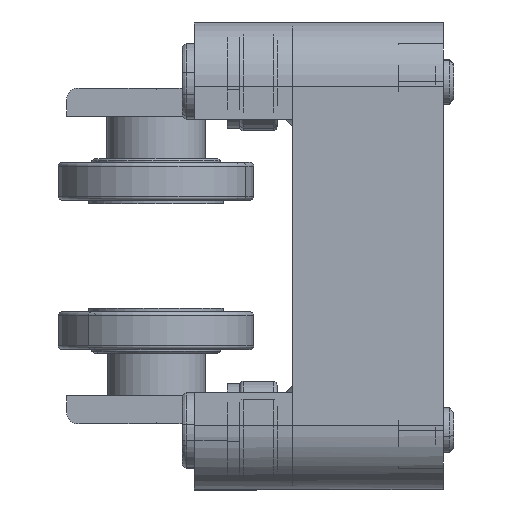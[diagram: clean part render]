
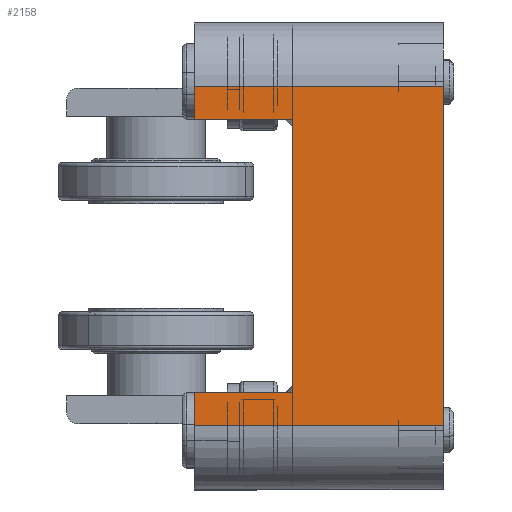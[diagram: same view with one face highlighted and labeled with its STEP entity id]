
A CAD part, left-side view. The second image highlights one B-rep face of the part: STEP entity #2158.
In plain terms, the highlighted planar face has unit normal (-1, 0, 0).
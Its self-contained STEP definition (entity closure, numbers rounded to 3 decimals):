
#132 = CARTESIAN_POINT ( 'NONE',  ( -185.257, 19.513, -27.5 ) ) ;
#138 = DIRECTION ( 'NONE',  ( 0., 0., -1. ) ) ;
#169 = PLANE ( 'NONE',  #8388 ) ;
#348 = DIRECTION ( 'NONE',  ( 1., 0., 0. ) ) ;
#372 = DIRECTION ( 'NONE',  ( 0., 0., 1. ) ) ;
#1130 = DIRECTION ( 'NONE',  ( 0., 0., -1. ) ) ;
#1136 = CARTESIAN_POINT ( 'NONE',  ( -185.257, 32.513, -22.5 ) ) ;
#1203 = CARTESIAN_POINT ( 'NONE',  ( -185.257, -0.487, -27.5 ) ) ;
#2158 = ADVANCED_FACE ( 'NONE', ( #9236 ), #169, .F. ) ;
#2289 = ORIENTED_EDGE ( 'NONE', *, *, #3812, .F. ) ;
#2881 = ORIENTED_EDGE ( 'NONE', *, *, #10258, .T. ) ;
#3138 = ORIENTED_EDGE ( 'NONE', *, *, #3899, .F. ) ;
#3140 = ORIENTED_EDGE ( 'NONE', *, *, #10487, .F. ) ;
#3294 = ORIENTED_EDGE ( 'NONE', *, *, #10504, .F. ) ;
#3310 = ORIENTED_EDGE ( 'NONE', *, *, #10525, .T. ) ;
#3323 = ORIENTED_EDGE ( 'NONE', *, *, #10428, .T. ) ;
#3338 = ORIENTED_EDGE ( 'NONE', *, *, #10514, .T. ) ;
#3812 = EDGE_CURVE ( 'NONE', #14984, #15800, #4602, .T. ) ;
#3899 = EDGE_CURVE ( 'NONE', #15438, #15188, #4544, .T. ) ;
#4544 = LINE ( 'NONE', #17107, #4633 ) ;
#4602 = LINE ( 'NONE', #16211, #4743 ) ;
#4633 = VECTOR ( 'NONE', #17104, 1000. ) ;
#4743 = VECTOR ( 'NONE', #16213, 1000. ) ;
#5107 = LINE ( 'NONE', #1136, #5134 ) ;
#5134 = VECTOR ( 'NONE', #1130, 1000. ) ;
#7074 = LINE ( 'NONE', #14356, #7349 ) ;
#7117 = VECTOR ( 'NONE', #14346, 1000. ) ;
#7125 = LINE ( 'NONE', #14135, #7117 ) ;
#7210 = LINE ( 'NONE', #14545, #7256 ) ;
#7237 = VECTOR ( 'NONE', #14486, 1000. ) ;
#7256 = VECTOR ( 'NONE', #14541, 1000. ) ;
#7262 = VECTOR ( 'NONE', #372, 1000. ) ;
#7335 = LINE ( 'NONE', #1203, #7262 ) ;
#7349 = VECTOR ( 'NONE', #14341, 1000. ) ;
#7379 = LINE ( 'NONE', #14447, #7237 ) ;
#8388 = AXIS2_PLACEMENT_3D ( 'NONE', #132, #348, #138 ) ;
#9236 = FACE_OUTER_BOUND ( 'NONE', #11651, .T. ) ;
#10258 = EDGE_CURVE ( 'NONE', #15355, #14949, #5107, .T. ) ;
#10428 = EDGE_CURVE ( 'NONE', #15216, #15800, #7335, .T. ) ;
#10487 = EDGE_CURVE ( 'NONE', #15355, #15438, #7210, .T. ) ;
#10504 = EDGE_CURVE ( 'NONE', #15872, #14984, #7379, .T. ) ;
#10514 = EDGE_CURVE ( 'NONE', #14949, #15216, #7125, .T. ) ;
#10525 = EDGE_CURVE ( 'NONE', #15872, #15188, #7074, .T. ) ;
#11651 = EDGE_LOOP ( 'NONE', ( #3138, #3140, #2881, #3338, #3323, #2289, #3294, #3310 ) ) ;
#12127 = CARTESIAN_POINT ( 'NONE',  ( -185.257, 19.513, -18.1 ) ) ;
#12214 = CARTESIAN_POINT ( 'NONE',  ( -185.257, 32.513, -22.5 ) ) ;
#12234 = CARTESIAN_POINT ( 'NONE',  ( -185.257, 32.513, 22.5 ) ) ;
#12325 = CARTESIAN_POINT ( 'NONE',  ( -185.257, 19.513, 18.1 ) ) ;
#12352 = CARTESIAN_POINT ( 'NONE',  ( -185.257, 32.513, -18.1 ) ) ;
#12462 = CARTESIAN_POINT ( 'NONE',  ( -185.257, -0.487, -22.5 ) ) ;
#12570 = CARTESIAN_POINT ( 'NONE',  ( -185.257, 32.513, 18.1 ) ) ;
#12579 = CARTESIAN_POINT ( 'NONE',  ( -185.257, -0.487, 22.5 ) ) ;
#14135 = CARTESIAN_POINT ( 'NONE',  ( -185.257, 19.513, -22.5 ) ) ;
#14341 = DIRECTION ( 'NONE',  ( 0., -1., 0. ) ) ;
#14346 = DIRECTION ( 'NONE',  ( 0., -1., 0. ) ) ;
#14356 = CARTESIAN_POINT ( 'NONE',  ( -185.257, 32.513, 18.1 ) ) ;
#14447 = CARTESIAN_POINT ( 'NONE',  ( -185.257, 32.513, 22.5 ) ) ;
#14486 = DIRECTION ( 'NONE',  ( 0., 0., 1. ) ) ;
#14541 = DIRECTION ( 'NONE',  ( 0., -1., 0. ) ) ;
#14545 = CARTESIAN_POINT ( 'NONE',  ( -185.257, 32.513, -18.1 ) ) ;
#14949 = VERTEX_POINT ( 'NONE', #12214 ) ;
#14984 = VERTEX_POINT ( 'NONE', #12234 ) ;
#15188 = VERTEX_POINT ( 'NONE', #12325 ) ;
#15216 = VERTEX_POINT ( 'NONE', #12462 ) ;
#15355 = VERTEX_POINT ( 'NONE', #12352 ) ;
#15438 = VERTEX_POINT ( 'NONE', #12127 ) ;
#15800 = VERTEX_POINT ( 'NONE', #12579 ) ;
#15872 = VERTEX_POINT ( 'NONE', #12570 ) ;
#16211 = CARTESIAN_POINT ( 'NONE',  ( -185.257, 19.513, 22.5 ) ) ;
#16213 = DIRECTION ( 'NONE',  ( 0., -1., 0. ) ) ;
#17104 = DIRECTION ( 'NONE',  ( 0., 0., 1. ) ) ;
#17107 = CARTESIAN_POINT ( 'NONE',  ( -185.257, 19.513, -27.5 ) ) ;
